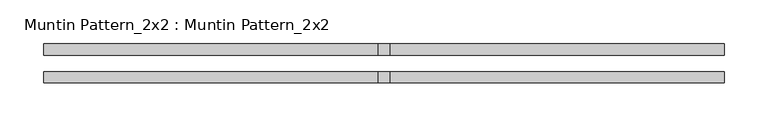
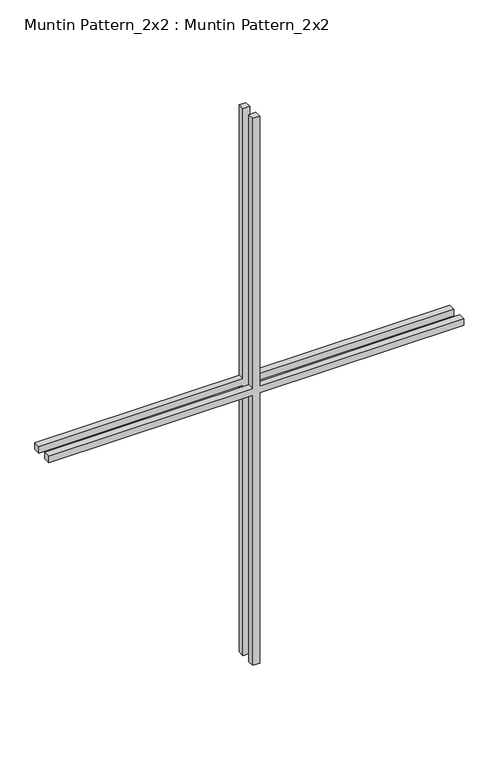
"""IFC4 building model written with IfcOpenShell, lengths in millimetres: proxy geometry, Muntin Pattern_2x2 : Muntin Pattern_2x2."""

import ifcopenshell
import ifcopenshell.guid

model = None  # the IFC model being written
_history = None  # IfcOwnerHistory: only IFC2X3 demands one
_inside = {}  # id of a spatial element -> (the spatial element, [elements in it])
_under = {}  # id of a project, library or spatial element -> (it, [spatial elements below it])
_declared = {}  # id of a project -> (the project, [libraries it declares])
_typed = {}  # id of a type object -> (the type object, [elements of that type])
_made_of = {}  # id of a material, layer set ... -> (it, [elements and type objects made of it])


def new_model(schema):
    """Start an empty IFC model of exactly this schema.

    Asked for "IFC4X3", IfcOpenShell would pick the latest addendum, in which some entities
    have other attributes; the version numbers below select the first issue.
    IFC2X3 requires an IfcOwnerHistory on every rooted entity: one is made here for all.
    """
    global model, _history
    if schema == "IFC4X3":
        model = ifcopenshell.file(schema_version=(4, 3, 0, 0))
    else:
        model = ifcopenshell.file(schema=schema)
    _inside.clear()
    _under.clear()
    _declared.clear()
    _typed.clear()
    _made_of.clear()
    _history = None
    if model.schema == "IFC2X3":
        org = make("IfcOrganization", Name="unknown")
        user = make(
            "IfcPersonAndOrganization",
            ThePerson=make("IfcPerson", FamilyName="unknown"),
            TheOrganization=org,
        )
        app = make(
            "IfcApplication",
            ApplicationDeveloper=org,
            Version="unknown",
            ApplicationFullName="unknown",
            ApplicationIdentifier="unknown",
        )
        _history = make(
            "IfcOwnerHistory",
            OwningUser=user,
            OwningApplication=app,
            ChangeAction="ADDED",
            CreationDate=0,
        )
    return model


def make(cls, **values):
    """One entity of the class cls with the attributes given. An attribute that is None is left unset."""
    return model.create_entity(
        cls, **{name: value for name, value in values.items() if value is not None}
    )


def rooted(cls, **values):
    """An entity with a GlobalId (a new one), such as an element, a storey or a relation."""
    return make(cls, GlobalId=ifcopenshell.guid.new(), OwnerHistory=_history, **values)


def si_unit(unit_type, name, prefix=None):
    """IfcSIUnit, for example si_unit("LENGTHUNIT", "METRE", prefix="MILLI")."""
    return make("IfcSIUnit", UnitType=unit_type, Prefix=prefix, Name=name)


def assignment(units):
    """IfcUnitAssignment: the units of a project."""
    return None if units is None else make("IfcUnitAssignment", Units=units)


def point(xyz):
    """IfcCartesianPoint."""
    return None if xyz is None else make("IfcCartesianPoint", Coordinates=xyz)


def direction(xyz):
    """IfcDirection."""
    return None if xyz is None else make("IfcDirection", DirectionRatios=xyz)


def frame(location, z_axis=None, x_axis=None):
    """IfcAxis2Placement3D, a coordinate frame: its origin and axes. An axis left out is left unset."""
    return make(
        "IfcAxis2Placement3D",
        Location=point(location),
        Axis=direction(z_axis),
        RefDirection=direction(x_axis),
    )


def origin():
    """The frame at (0, 0, 0) with its axes left unset."""
    return frame((0.0, 0.0, 0.0))


def place(relative_to, where):
    """IfcLocalPlacement: puts the frame where relative to a parent placement (None: the world)."""
    return make(
        "IfcLocalPlacement", PlacementRelTo=relative_to, RelativePlacement=where
    )


def context(
    kind, dimensions, precision=None, world=None, true_north=None, identifier=None
):
    """IfcGeometricRepresentationContext, for example the 3D "Model" context."""
    return make(
        "IfcGeometricRepresentationContext",
        ContextIdentifier=identifier,
        ContextType=kind,
        CoordinateSpaceDimension=dimensions,
        Precision=precision,
        WorldCoordinateSystem=world,
        TrueNorth=true_north,
    )


def project(units=None, contexts=None):
    """IfcProject with its units and contexts."""
    return rooted(
        "IfcProject",
        Name="project",
        RepresentationContexts=contexts,
        UnitsInContext=assignment(units),
    )


def spatial(cls, under=None, at=None, **own):
    """A site, building, storey or space (cls), placed at a placement, below another one or the project."""
    s = rooted(cls, ObjectPlacement=at, **own)
    if under is not None:
        _under.setdefault(under.id(), (under, []))[1].append(s)
    return s


def polyline(points):
    """IfcPolyline through the points."""
    return make("IfcPolyline", Points=[point(p) for p in points])


def outline(outer, holes=None, kind="AREA"):
    """IfcArbitraryClosedProfileDef: a profile drawn as a closed curve; with holes, ...WithVoids."""
    if holes is None:
        return make("IfcArbitraryClosedProfileDef", ProfileType=kind, OuterCurve=outer)
    return make(
        "IfcArbitraryProfileDefWithVoids",
        ProfileType=kind,
        OuterCurve=outer,
        InnerCurves=holes,
    )


def extrude(swept, where, along, depth):
    """IfcExtrudedAreaSolid: the profile swept, set in the frame where, extruded along a direction by depth."""
    return make(
        "IfcExtrudedAreaSolid",
        SweptArea=swept,
        Position=where,
        ExtrudedDirection=direction(along),
        Depth=depth,
    )


def shape(context_of_items, identifier, shape_type, items):
    """IfcShapeRepresentation: the items that make up one representation, for example the "Body"."""
    return make(
        "IfcShapeRepresentation",
        ContextOfItems=context_of_items,
        RepresentationIdentifier=identifier,
        RepresentationType=shape_type,
        Items=items,
    )


def source(mapping_origin, context_of_items, identifier, shape_type, items):
    """IfcRepresentationMap: a shape defined once, which mapped items show again and again."""
    return make(
        "IfcRepresentationMap",
        MappingOrigin=mapping_origin,
        MappedRepresentation=shape(context_of_items, identifier, shape_type, items),
    )


def transform(
    local_origin,
    x_axis=None,
    y_axis=None,
    z_axis=None,
    scale=None,
    scale2=None,
    scale3=None,
    uniform=True,
):
    """IfcCartesianTransformationOperator3D, or its non-uniform kind. x_axis, y_axis, z_axis: its Axis1, 2, 3."""
    if uniform:
        return make(
            "IfcCartesianTransformationOperator3D",
            Axis1=direction(x_axis),
            Axis2=direction(y_axis),
            LocalOrigin=point(local_origin),
            Scale=scale,
            Axis3=direction(z_axis),
        )
    return make(
        "IfcCartesianTransformationOperator3DnonUniform",
        Axis1=direction(x_axis),
        Axis2=direction(y_axis),
        LocalOrigin=point(local_origin),
        Scale=scale,
        Axis3=direction(z_axis),
        Scale2=scale2,
        Scale3=scale3,
    )


def mapped(mapping_source, mapping_target):
    """IfcMappedItem: shows the shape of a source again, moved by a transform."""
    return make(
        "IfcMappedItem", MappingSource=mapping_source, MappingTarget=mapping_target
    )


def made_of(thing, what):
    """Note that an element or type object is made of a material, layer set ...; save() writes the relation."""
    if what is not None:
        _made_of.setdefault(what.id(), (what, []))[1].append(thing)
    return thing


def element(
    cls,
    number,
    at=None,
    inside=None,
    cuts=None,
    type_object=None,
    material=None,
    context=None,
    identifier="Body",
    shape_type=None,
    held_by="IfcProductDefinitionShape",
    body=None,
    shapes=None,
    **own,
):
    """One element of the class cls, such as IfcWall. Its Tag is "e" and its number.

    at: its placement. inside: the storey or other place that contains it. cuts: it is an
    opening in that element (IfcRelVoidsElement). A single representation is given by context,
    identifier, shape_type and body (its items); several are given by shapes. held_by: the class
    of the entity that holds the representations. save() writes the other relations.
    """
    e = rooted(cls, Tag="e%d" % number, ObjectPlacement=at, **own)
    if body is not None:
        shapes = [shape(context, identifier, shape_type, body)]
    if shapes is not None:
        e.Representation = make(held_by, Representations=shapes)
    if inside is not None:
        _inside.setdefault(inside.id(), (inside, []))[1].append(e)
    if cuts is not None:
        rooted(
            "IfcRelVoidsElement", RelatingBuildingElement=cuts, RelatedOpeningElement=e
        )
    if type_object is not None:
        _typed.setdefault(type_object.id(), (type_object, []))[1].append(e)
    return made_of(e, material)


def aggregate(whole, parts):
    """IfcRelAggregates: a whole, such as a stair, and the parts it consists of."""
    return rooted("IfcRelAggregates", RelatingObject=whole, RelatedObjects=parts)


def save(model, path):
    """Write the relations noted so far, then the file.

    IfcRelAggregates (storeys below a building ...), IfcRelContainedInSpatialStructure (elements
    in a storey), IfcRelDefinesByType, IfcRelAssociatesMaterial and IfcRelDeclares: one each for
    every whole, place, type object, material and project.
    """
    for whole, parts in _under.values():
        aggregate(whole, parts)
    for where, things in _inside.values():
        rooted(
            "IfcRelContainedInSpatialStructure",
            RelatedElements=things,
            RelatingStructure=where,
        )
    for kind, things in _typed.values():
        rooted("IfcRelDefinesByType", RelatedObjects=things, RelatingType=kind)
    for what, things in _made_of.values():
        rooted("IfcRelAssociatesMaterial", RelatedObjects=things, RelatingMaterial=what)
    for by, libraries in _declared.values():
        rooted("IfcRelDeclares", RelatingContext=by, RelatedDefinitions=libraries)
    model.write(path)


def muntin_pattern_2x2_muntin_pattern_2x2_49331bd8(model_context):
    return source(origin(), model_context, "Body", "SweptSolid", [
        extrude(outline(polyline([(546.5, -6.35), (546.5, -387.65), (533.8, -387.65), (533.8, -6.35), (0.0, -6.35), (0.0, 6.35), (533.8, 6.35), (533.8, 387.65), (546.5, 387.65), (546.5, 6.35), (1080.3, 6.35), (1080.3, -6.35), (546.5, -6.35)])), frame((0.0, 9.525, 0.0), z_axis=(0.0, 1.0, 0.0), x_axis=(0.0, 0.0, 1.0)), (0.0, 0.0, 1.0), 12.7),
        extrude(outline(polyline([(546.5, -6.35), (546.5, -387.65), (533.8, -387.65), (533.8, -6.35), (0.0, -6.35), (0.0, 6.35), (533.8, 6.35), (533.8, 387.65), (546.5, 387.65), (546.5, 6.35), (1080.3, 6.35), (1080.3, -6.35), (546.5, -6.35)])), frame((0.0, -22.225, 0.0), z_axis=(0.0, 1.0, 0.0), x_axis=(0.0, 0.0, 1.0)), (0.0, 0.0, 1.0), 12.7),
    ])


if __name__ == "__main__":
    model = new_model("IFC4")
    model_context = context("Model", 3, world=origin())
    ifc_project = project(units=[si_unit("LENGTHUNIT", "METRE", prefix="MILLI")], contexts=[model_context])
    site = spatial("IfcSite", under=ifc_project)
    building = spatial("IfcBuilding", under=site)
    placement = place(None, origin())
    muntin_pattern_2x2_muntin_pattern_2x2_shape = muntin_pattern_2x2_muntin_pattern_2x2_49331bd8(model_context)
    element("IfcBuildingElementProxy", 1, Name="Muntin Pattern_2x2 : Muntin Pattern_2x2", ObjectType="Muntin Pattern_2x2 : Muntin Pattern_2x2", at=placement, inside=building, context=model_context, shape_type="MappedRepresentation", body=[
        mapped(muntin_pattern_2x2_muntin_pattern_2x2_shape, transform((0.0, 0.0, 0.0), x_axis=(1.0, 0.0, 0.0), y_axis=(0.0, 1.0, 0.0), z_axis=(0.0, 0.0, 1.0))),
    ])
    save(model, "model.ifc")
